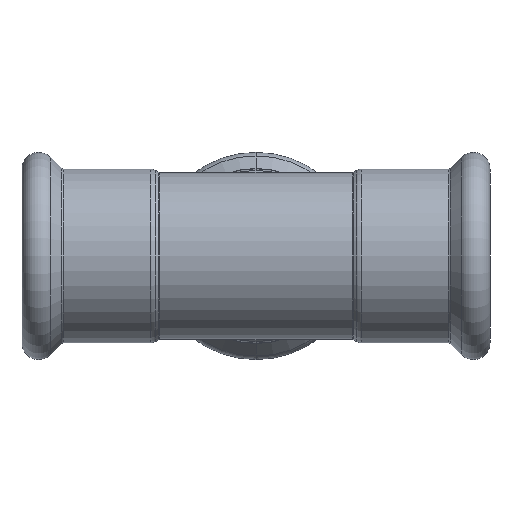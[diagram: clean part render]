
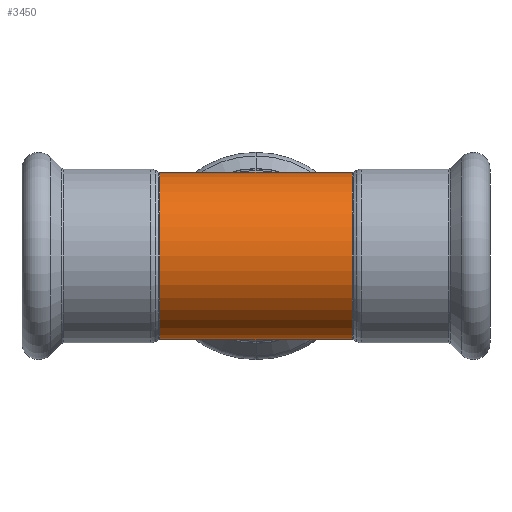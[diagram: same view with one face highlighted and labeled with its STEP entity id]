
A CAD part, front view. The second image highlights one B-rep face of the part: STEP entity #3450.
In plain terms, the highlighted cylindrical face has radius 15 mm (diameter 30 mm), a partial arc.
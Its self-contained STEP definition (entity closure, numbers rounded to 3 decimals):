
#225 = EDGE_CURVE ( 'NONE', #507, #631, #1497, .T. ) ;
#422 = VERTEX_POINT ( 'NONE', #3373 ) ;
#459 = DIRECTION ( 'NONE',  ( -1., 0., 0. ) ) ;
#474 = ORIENTED_EDGE ( 'NONE', *, *, #2969, .T. ) ;
#507 = VERTEX_POINT ( 'NONE', #1549 ) ;
#545 = CARTESIAN_POINT ( 'NONE',  ( -17.248, 0., 0. ) ) ;
#631 = VERTEX_POINT ( 'NONE', #2943 ) ;
#667 = VECTOR ( 'NONE', #2256, 1000. ) ;
#753 = LINE ( 'NONE', #1694, #667 ) ;
#854 = CARTESIAN_POINT ( 'NONE',  ( 27.146, 0., 0. ) ) ;
#943 = VERTEX_POINT ( 'NONE', #3322 ) ;
#971 = LINE ( 'NONE', #2971, #1063 ) ;
#1006 = CARTESIAN_POINT ( 'NONE',  ( 17.248, 0., 0. ) ) ;
#1012 = LINE ( 'NONE', #2583, #1745 ) ;
#1063 = VECTOR ( 'NONE', #459, 1000. ) ;
#1170 = CARTESIAN_POINT ( 'NONE',  ( 0., 0., -15. ) ) ;
#1280 = DIRECTION ( 'NONE',  ( 0., 0., 1. ) ) ;
#1308 = AXIS2_PLACEMENT_3D ( 'NONE', #854, #2488, #1990 ) ;
#1358 = DIRECTION ( 'NONE',  ( 0., 0., 1. ) ) ;
#1390 = EDGE_CURVE ( 'NONE', #1722, #943, #3208, .T. ) ;
#1391 = DIRECTION ( 'NONE',  ( -1., 0., 0. ) ) ;
#1468 = EDGE_CURVE ( 'NONE', #943, #422, #1794, .T. ) ;
#1497 = CIRCLE ( 'NONE', #2639, 15. ) ;
#1549 = CARTESIAN_POINT ( 'NONE',  ( 17.248, 0., -15. ) ) ;
#1676 = EDGE_CURVE ( 'NONE', #507, #1722, #753, .T. ) ;
#1694 = CARTESIAN_POINT ( 'NONE',  ( 27.146, 0., -15. ) ) ;
#1722 = VERTEX_POINT ( 'NONE', #1170 ) ;
#1745 = VECTOR ( 'NONE', #1999, 1000. ) ;
#1794 = CIRCLE ( 'NONE', #3367, 15. ) ;
#1880 = CARTESIAN_POINT ( 'NONE',  ( 27.146, 0., -15. ) ) ;
#1895 = ORIENTED_EDGE ( 'NONE', *, *, #2296, .T. ) ;
#1923 = VECTOR ( 'NONE', #1391, 1000. ) ;
#1990 = DIRECTION ( 'NONE',  ( 0., 0., 1. ) ) ;
#1999 = DIRECTION ( 'NONE',  ( -1., 0., 0. ) ) ;
#2248 = VERTEX_POINT ( 'NONE', #2931 ) ;
#2256 = DIRECTION ( 'NONE',  ( -1., 0., 0. ) ) ;
#2274 = ORIENTED_EDGE ( 'NONE', *, *, #1676, .F. ) ;
#2296 = EDGE_CURVE ( 'NONE', #2248, #422, #971, .T. ) ;
#2324 = FACE_OUTER_BOUND ( 'NONE', #3506, .T. ) ;
#2488 = DIRECTION ( 'NONE',  ( -1., 0., 0. ) ) ;
#2502 = ORIENTED_EDGE ( 'NONE', *, *, #225, .T. ) ;
#2583 = CARTESIAN_POINT ( 'NONE',  ( 27.146, 0., 15. ) ) ;
#2639 = AXIS2_PLACEMENT_3D ( 'NONE', #1006, #2938, #1280 ) ;
#2931 = CARTESIAN_POINT ( 'NONE',  ( 0., 0., 15. ) ) ;
#2938 = DIRECTION ( 'NONE',  ( -1., 0., 0. ) ) ;
#2943 = CARTESIAN_POINT ( 'NONE',  ( 17.248, 0., 15. ) ) ;
#2969 = EDGE_CURVE ( 'NONE', #631, #2248, #1012, .T. ) ;
#2971 = CARTESIAN_POINT ( 'NONE',  ( 27.146, 0., 15. ) ) ;
#3208 = LINE ( 'NONE', #1880, #1923 ) ;
#3262 = CYLINDRICAL_SURFACE ( 'NONE', #1308, 15. ) ;
#3318 = DIRECTION ( 'NONE',  ( -1., 0., 0. ) ) ;
#3322 = CARTESIAN_POINT ( 'NONE',  ( -17.248, 0., -15. ) ) ;
#3367 = AXIS2_PLACEMENT_3D ( 'NONE', #545, #3318, #1358 ) ;
#3373 = CARTESIAN_POINT ( 'NONE',  ( -17.248, 0., 15. ) ) ;
#3440 = ORIENTED_EDGE ( 'NONE', *, *, #1390, .F. ) ;
#3450 = ADVANCED_FACE ( 'NONE', ( #2324 ), #3262, .T. ) ;
#3506 = EDGE_LOOP ( 'NONE', ( #2274, #2502, #474, #1895, #3513, #3440 ) ) ;
#3513 = ORIENTED_EDGE ( 'NONE', *, *, #1468, .F. ) ;
